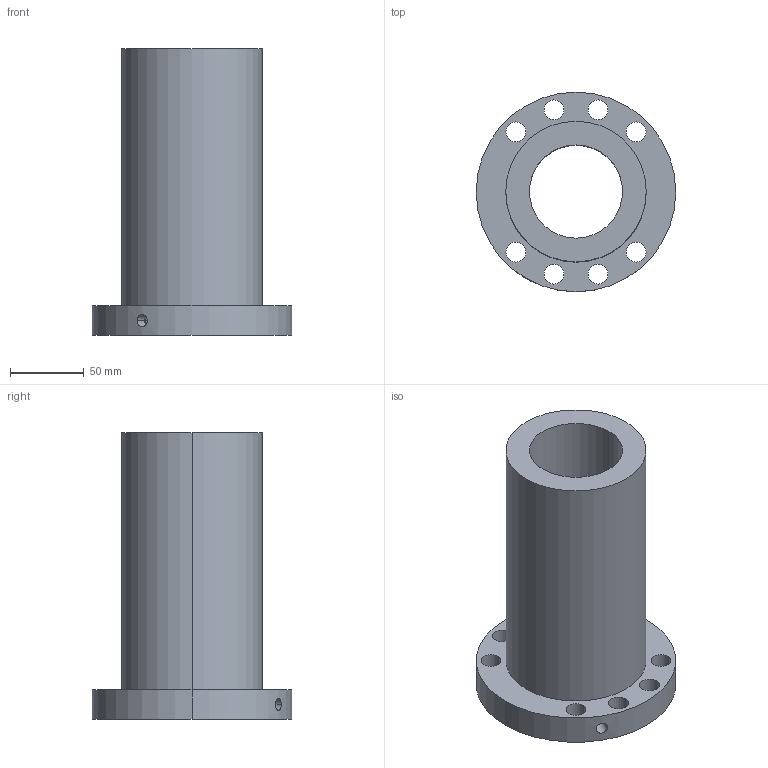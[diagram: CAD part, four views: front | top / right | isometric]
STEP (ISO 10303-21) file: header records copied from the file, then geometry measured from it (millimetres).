
FILE_DESCRIPTION((''),'2;1');
FILE_NAME('63-10K5_635','2008-04-10T',('yanyu'),(''),'PRO/ENGINEER BY PARAMETRIC TECHNOLOGY CORPORATION, 2005070','PRO/ENGINEER BY PARAMETRIC TECHNOLOGY CORPORATION, 2005070','');
FILE_SCHEMA(('CONFIG_CONTROL_DESIGN'));
Length unit declared in the file: millimetre
Products named in the file (1): 63-10K5_635
Bounding box: 135 x 135 x 194 mm (x, y, z)
Volume: 890742.5 mm3; surface area: 126382.9 mm2
Topology: 1 solids, 1 shells, 30 faces, 78 edges, 52 vertices
Faces by surface type: cylinder 26, plane 4
Entity records: 1070 total; most frequent: CARTESIAN_POINT 210, DIRECTION 182, ORIENTED_EDGE 156, AXIS2_PLACEMENT_3D 78, EDGE_CURVE 78, VERTEX_POINT 52, EDGE_LOOP 52, CIRCLE 48
